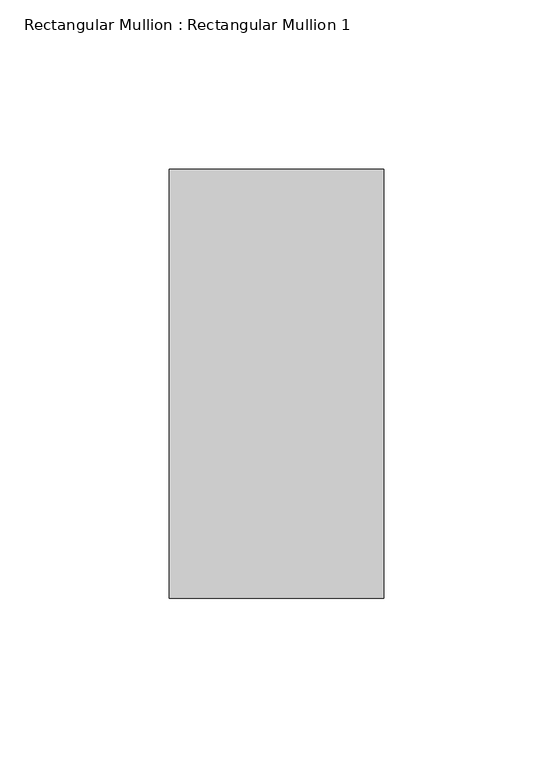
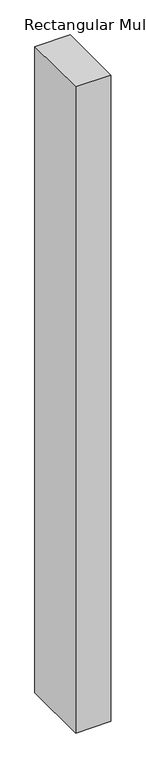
"""IFC4 building model written with IfcOpenShell, lengths in millimetres: member geometry, Rectangular Mullion : Rectangular Mullion 1."""

from ifc_helpers import new_model, si_unit, frame, origin, place, context, project, spatial, polyline, outline, extrude, source, transform, mapped, element, save


def rectangular_mullion_rectangular_mullion_1_d740f499(model_context):
    return source(origin(), model_context, "Body", "SweptSolid", [
        extrude(outline(polyline([(0.0, 63.5), (0.0, -63.5), (-63.5, -63.5), (-63.5, 63.5), (0.0, 63.5)])), frame((0.0, 0.0, -1232.8497579), z_axis=(0.0, 0.0, 1.0), x_axis=(1.0, 0.0, 0.0)), (0.0, 0.0, 1.0), 1232.8497579),
    ])


if __name__ == "__main__":
    model = new_model("IFC4")
    model_context = context("Model", 3, world=origin())
    ifc_project = project(units=[si_unit("LENGTHUNIT", "METRE", prefix="MILLI")], contexts=[model_context])
    site = spatial("IfcSite", under=ifc_project)
    building = spatial("IfcBuilding", under=site)
    placement = place(None, origin())
    rectangular_mullion_rectangular_mullion_1_shape = rectangular_mullion_rectangular_mullion_1_d740f499(model_context)
    element("IfcMember", 1, ObjectType="Rectangular Mullion : Rectangular Mullion 1", at=placement, inside=building, context=model_context, shape_type="MappedRepresentation", body=[
        mapped(rectangular_mullion_rectangular_mullion_1_shape, transform((0.0, 0.0, 0.0), x_axis=(1.0, 0.0, 0.0), y_axis=(0.0, 1.0, 0.0), z_axis=(0.0, 0.0, 1.0))),
    ])
    save(model, "model.ifc")
